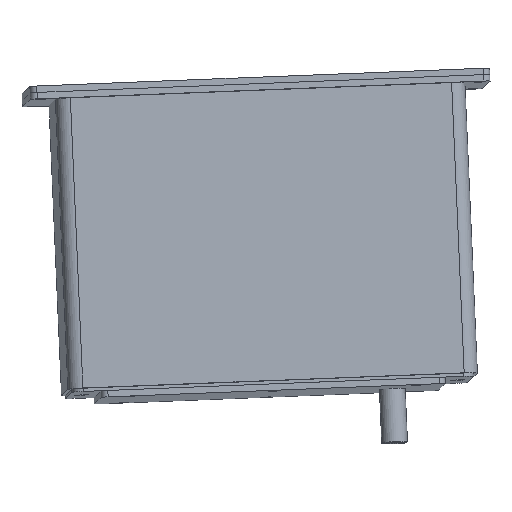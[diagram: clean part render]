
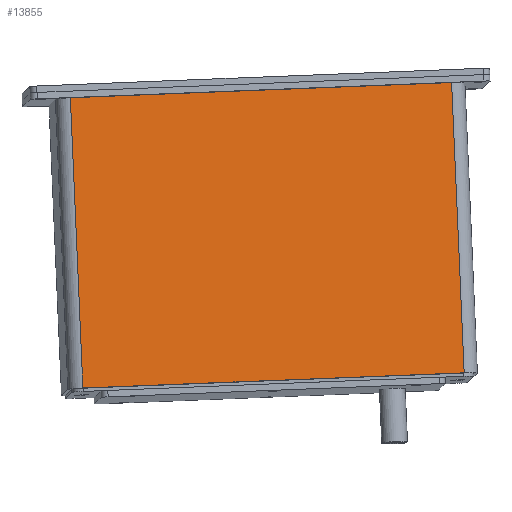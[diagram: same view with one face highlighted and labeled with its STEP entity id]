
A CAD part, front view. The second image highlights one B-rep face of the part: STEP entity #13855.
In plain terms, the highlighted planar face has unit normal (0.061, -0.997, 0.056) as drawn and (0, -1, 0) by its records, which use the part's own axes.
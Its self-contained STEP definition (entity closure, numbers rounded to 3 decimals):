
#13797=CARTESIAN_POINT('',(271.593,-7.667,226.0));
#13798=VERTEX_POINT('',#13797);
#13806=CARTESIAN_POINT('',(271.593,-7.667,0.0));
#13807=VERTEX_POINT('',#13806);
#13808=CARTESIAN_POINT('',(271.593,-7.667,0.0));
#13809=DIRECTION('',(0.0,0.0,1.0));
#13810=VECTOR('',#13809,226.0);
#13811=LINE('',#13808,#13810);
#13812=EDGE_CURVE('',#13807,#13798,#13811,.T.);
#13825=CARTESIAN_POINT('',(271.593,-7.667,0.0));
#13826=DIRECTION('',(0.0,-1.0,0.0));
#13827=DIRECTION('',(0.0,0.0,-1.0));
#13828=AXIS2_PLACEMENT_3D('',#13825,#13826,#13827);
#13829=PLANE('',#13828);
#13830=CARTESIAN_POINT('',(-25.407,-7.667,226.0));
#13831=VERTEX_POINT('',#13830);
#13832=CARTESIAN_POINT('',(271.593,-7.667,226.0));
#13833=DIRECTION('',(-1.0,0.0,0.0));
#13834=VECTOR('',#13833,297.0);
#13835=LINE('',#13832,#13834);
#13836=EDGE_CURVE('',#13798,#13831,#13835,.T.);
#13837=ORIENTED_EDGE('',*,*,#13836,.T.);
#13838=CARTESIAN_POINT('',(-25.407,-7.667,0.0));
#13839=VERTEX_POINT('',#13838);
#13840=CARTESIAN_POINT('',(-25.407,-7.667,0.0));
#13841=DIRECTION('',(0.0,0.0,1.0));
#13842=VECTOR('',#13841,226.0);
#13843=LINE('',#13840,#13842);
#13844=EDGE_CURVE('',#13839,#13831,#13843,.T.);
#13845=ORIENTED_EDGE('',*,*,#13844,.F.);
#13846=CARTESIAN_POINT('',(271.593,-7.667,0.0));
#13847=DIRECTION('',(-1.0,0.0,0.0));
#13848=VECTOR('',#13847,297.0);
#13849=LINE('',#13846,#13848);
#13850=EDGE_CURVE('',#13807,#13839,#13849,.T.);
#13851=ORIENTED_EDGE('',*,*,#13850,.F.);
#13852=ORIENTED_EDGE('',*,*,#13812,.T.);
#13853=EDGE_LOOP('',(#13837,#13845,#13851,#13852));
#13854=FACE_OUTER_BOUND('',#13853,.T.);
#13855=ADVANCED_FACE('',(#13854),#13829,.T.);
